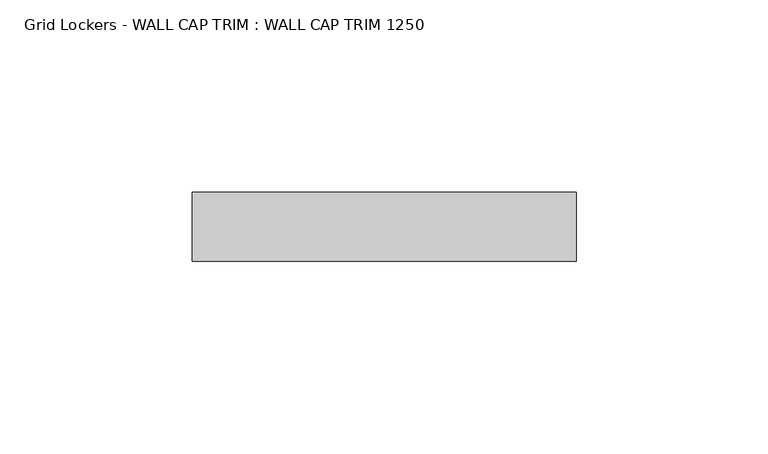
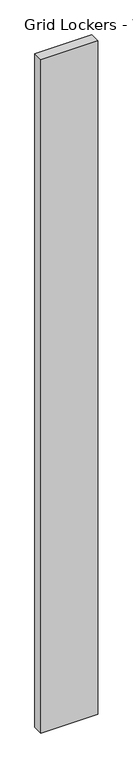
"""IFC4 building model written with IfcOpenShell, lengths in millimetres: furniture geometry, Grid Lockers - WALL CAP TRIM : WALL CAP TRIM 1250."""

from ifc_helpers import new_model, si_unit, origin, origin_with_axes, place, context, project, spatial, polyline, outline, extrude, source, transform, mapped, element, save


def grid_lockers_wall_cap_trim_wall_cap_trim_1250_d23b244f(model_context):
    return source(origin(), model_context, "Body", "SweptSolid", [
        extrude(outline(polyline([(100.0, -18.0), (0.0, -18.0), (0.0, 0.0), (100.0, 0.0), (100.0, -18.0)])), origin_with_axes(), (0.0, 0.0, 1.0), 1250.0),
    ])


if __name__ == "__main__":
    model = new_model("IFC4")
    model_context = context("Model", 3, world=origin())
    ifc_project = project(units=[si_unit("LENGTHUNIT", "METRE", prefix="MILLI")], contexts=[model_context])
    site = spatial("IfcSite", under=ifc_project)
    building = spatial("IfcBuilding", under=site)
    placement = place(None, origin())
    grid_lockers_wall_cap_trim_wall_cap_trim_1250_shape = grid_lockers_wall_cap_trim_wall_cap_trim_1250_d23b244f(model_context)
    element("IfcFurniture", 1, ObjectType="Grid Lockers - WALL CAP TRIM : WALL CAP TRIM 1250", at=placement, inside=building, context=model_context, shape_type="MappedRepresentation", body=[
        mapped(grid_lockers_wall_cap_trim_wall_cap_trim_1250_shape, transform((0.0, 0.0, 0.0), x_axis=(1.0, 0.0, 0.0), y_axis=(0.0, 1.0, 0.0), z_axis=(0.0, 0.0, 1.0))),
    ])
    save(model, "model.ifc")
